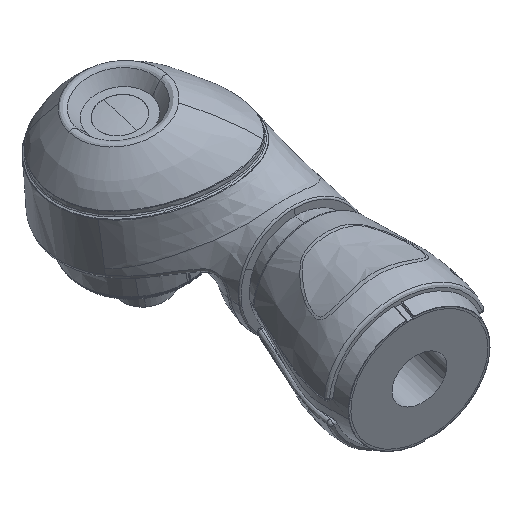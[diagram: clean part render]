
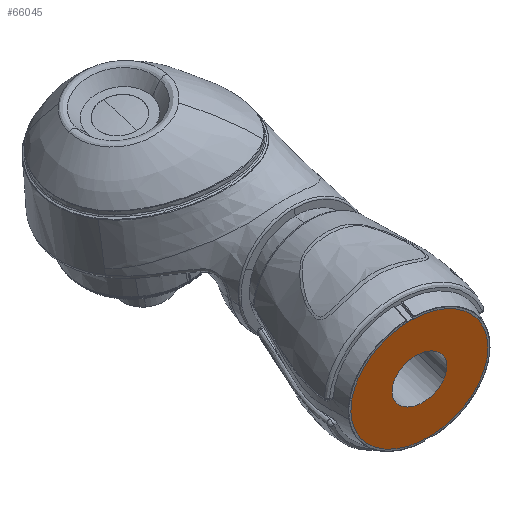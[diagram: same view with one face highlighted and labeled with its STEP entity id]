
A CAD part, front view. The second image highlights one B-rep face of the part: STEP entity #66045.
In plain terms, the highlighted planar face has unit normal (0.571, -0.619, -0.539).
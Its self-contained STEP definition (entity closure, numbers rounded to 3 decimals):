
#4791 = EDGE_CURVE ( 'NONE', #12797, #12931, #57451, .T. ) ;
#5256 = AXIS2_PLACEMENT_3D ( 'NONE', #75000, #74997, #74994 ) ;
#5890 = AXIS2_PLACEMENT_3D ( 'NONE', #11685, #11682, #11679 ) ;
#6054 = EDGE_CURVE ( 'NONE', #12466, #12690, #57607, .T. ) ;
#6444 = EDGE_CURVE ( 'NONE', #12931, #12797, #57641, .T. ) ;
#6977 = EDGE_CURVE ( 'NONE', #12690, #11190, #57703, .T. ) ;
#6979 = EDGE_CURVE ( 'NONE', #11190, #12466, #57699, .T. ) ;
#6981 = AXIS2_PLACEMENT_3D ( 'NONE', #18568, #18567, #18566 ) ;
#9562 = DIRECTION ( 'NONE',  ( 0.735, 0.678, 0. ) ) ;
#9564 = DIRECTION ( 'NONE',  ( 0.571, -0.619, -0.539 ) ) ;
#9566 = CARTESIAN_POINT ( 'NONE',  ( 448.138, 68.911, 456.745 ) ) ;
#9581 = PLANE ( 'NONE',  #37047 ) ;
#11190 = VERTEX_POINT ( 'NONE', #42344 ) ;
#11679 = DIRECTION ( 'NONE',  ( 0.735, 0.678, 0. ) ) ;
#11682 = DIRECTION ( 'NONE',  ( -0.571, 0.619, 0.539 ) ) ;
#11685 = CARTESIAN_POINT ( 'NONE',  ( 489.888, 79.615, 488.717 ) ) ;
#12466 = VERTEX_POINT ( 'NONE', #42101 ) ;
#12690 = VERTEX_POINT ( 'NONE', #42020 ) ;
#12797 = VERTEX_POINT ( 'NONE', #41999 ) ;
#12931 = VERTEX_POINT ( 'NONE', #41957 ) ;
#15145 = FACE_BOUND ( 'NONE', #59515, .T. ) ;
#15164 = FACE_OUTER_BOUND ( 'NONE', #58838, .T. ) ;
#18566 = DIRECTION ( 'NONE',  ( 0.735, 0.678, 0. ) ) ;
#18567 = DIRECTION ( 'NONE',  ( -0.571, 0.619, 0.539 ) ) ;
#18568 = CARTESIAN_POINT ( 'NONE',  ( 489.888, 79.615, 488.717 ) ) ;
#36373 = AXIS2_PLACEMENT_3D ( 'NONE', #42688, #42687, #42686 ) ;
#36377 = AXIS2_PLACEMENT_3D ( 'NONE', #42637, #42636, #42635 ) ;
#37047 = AXIS2_PLACEMENT_3D ( 'NONE', #9566, #9564, #9562 ) ;
#41957 = CARTESIAN_POINT ( 'NONE',  ( 500.914, 89.785, 488.717 ) ) ;
#41999 = CARTESIAN_POINT ( 'NONE',  ( 478.862, 69.445, 488.717 ) ) ;
#42020 = CARTESIAN_POINT ( 'NONE',  ( 459.489, 59.81, 479.249 ) ) ;
#42101 = CARTESIAN_POINT ( 'NONE',  ( 462.326, 54.192, 488.717 ) ) ;
#42344 = CARTESIAN_POINT ( 'NONE',  ( 520.288, 99.42, 498.186 ) ) ;
#42635 = DIRECTION ( 'NONE',  ( -0.735, -0.678, 0. ) ) ;
#42636 = DIRECTION ( 'NONE',  ( 0.571, -0.619, -0.539 ) ) ;
#42637 = CARTESIAN_POINT ( 'NONE',  ( 489.888, 79.615, 488.717 ) ) ;
#42686 = DIRECTION ( 'NONE',  ( -0.735, -0.678, 0. ) ) ;
#42687 = DIRECTION ( 'NONE',  ( 0.571, -0.619, -0.539 ) ) ;
#42688 = CARTESIAN_POINT ( 'NONE',  ( 489.888, 79.615, 488.717 ) ) ;
#57451 = CIRCLE ( 'NONE', #6981, 15. ) ;
#57607 = CIRCLE ( 'NONE', #5256, 37.497 ) ;
#57641 = CIRCLE ( 'NONE', #5890, 15. ) ;
#57699 = CIRCLE ( 'NONE', #36377, 37.497 ) ;
#57703 = CIRCLE ( 'NONE', #36373, 37.497 ) ;
#58838 = EDGE_LOOP ( 'NONE', ( #66392, #66347, #66718 ) ) ;
#59515 = EDGE_LOOP ( 'NONE', ( #66797, #67007 ) ) ;
#66045 = ADVANCED_FACE ( 'NONE', ( #15145, #15164 ), #9581, .T. ) ;
#66347 = ORIENTED_EDGE ( 'NONE', *, *, #6979, .T. ) ;
#66392 = ORIENTED_EDGE ( 'NONE', *, *, #6977, .T. ) ;
#66718 = ORIENTED_EDGE ( 'NONE', *, *, #6054, .T. ) ;
#66797 = ORIENTED_EDGE ( 'NONE', *, *, #6444, .T. ) ;
#67007 = ORIENTED_EDGE ( 'NONE', *, *, #4791, .T. ) ;
#74994 = DIRECTION ( 'NONE',  ( -0.735, -0.678, 0. ) ) ;
#74997 = DIRECTION ( 'NONE',  ( 0.571, -0.619, -0.539 ) ) ;
#75000 = CARTESIAN_POINT ( 'NONE',  ( 489.888, 79.615, 488.717 ) ) ;
